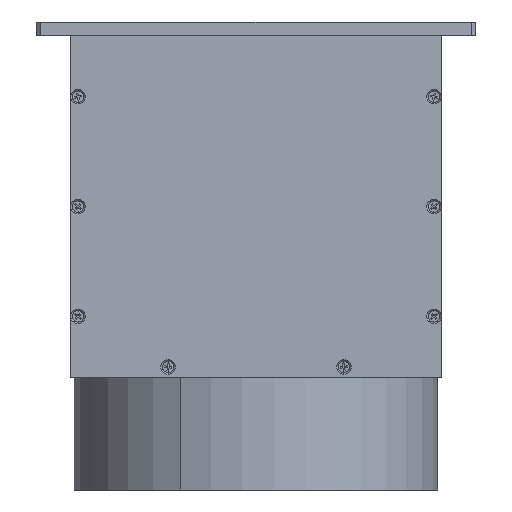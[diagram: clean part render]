
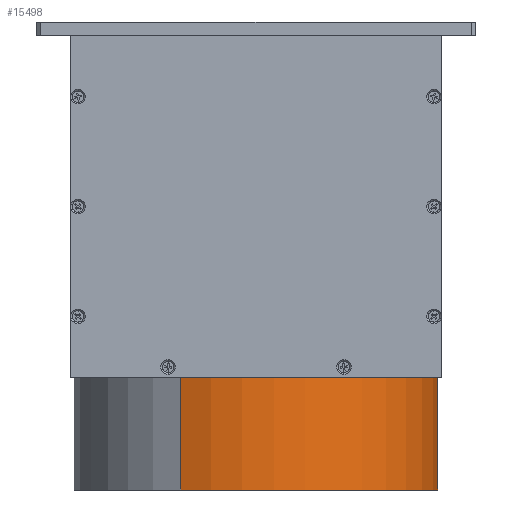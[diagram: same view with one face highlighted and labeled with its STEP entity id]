
A CAD part, left-side view. The second image highlights one B-rep face of the part: STEP entity #15498.
In plain terms, the highlighted cylindrical face has radius 83 mm (diameter 166 mm), a partial arc.
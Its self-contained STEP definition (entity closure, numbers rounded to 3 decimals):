
#35 = CARTESIAN_POINT ( 'NONE',  ( 75.561, -34.344, -123.035 ) ) ;
#40 = CARTESIAN_POINT ( 'NONE',  ( -75.561, 34.344, 0. ) ) ;
#583 = CARTESIAN_POINT ( 'NONE',  ( -75.561, 34.344, -51. ) ) ;
#655 = EDGE_LOOP ( 'NONE', ( #3353, #3734, #6271, #11933 ) ) ;
#736 = CARTESIAN_POINT ( 'NONE',  ( 0., 0., -51. ) ) ;
#1133 = DIRECTION ( 'NONE',  ( 0., 0., -1. ) ) ;
#1746 = VERTEX_POINT ( 'NONE', #583 ) ;
#3353 = ORIENTED_EDGE ( 'NONE', *, *, #22527, .F. ) ;
#3540 = DIRECTION ( 'NONE',  ( 0., 0., -1. ) ) ;
#3734 = ORIENTED_EDGE ( 'NONE', *, *, #19596, .T. ) ;
#4732 = LINE ( 'NONE', #6526, #14430 ) ;
#5993 = CIRCLE ( 'NONE', #16334, 83. ) ;
#6271 = ORIENTED_EDGE ( 'NONE', *, *, #11660, .T. ) ;
#6526 = CARTESIAN_POINT ( 'NONE',  ( -75.561, 34.344, -123.035 ) ) ;
#9450 = AXIS2_PLACEMENT_3D ( 'NONE', #12890, #3540, #16395 ) ;
#9505 = DIRECTION ( 'NONE',  ( 0., 0., -1. ) ) ;
#10376 = CARTESIAN_POINT ( 'NONE',  ( 0., 0., 0. ) ) ;
#10738 = VERTEX_POINT ( 'NONE', #15229 ) ;
#10845 = DIRECTION ( 'NONE',  ( 0., 0., -1. ) ) ;
#10970 = DIRECTION ( 'NONE',  ( 0., 0., -1. ) ) ;
#11103 = CARTESIAN_POINT ( 'NONE',  ( 75.561, -34.344, 0. ) ) ;
#11330 = LINE ( 'NONE', #35, #12358 ) ;
#11660 = EDGE_CURVE ( 'NONE', #15305, #1746, #4732, .T. ) ;
#11933 = ORIENTED_EDGE ( 'NONE', *, *, #11958, .F. ) ;
#11958 = EDGE_CURVE ( 'NONE', #10738, #1746, #5993, .T. ) ;
#12358 = VECTOR ( 'NONE', #10970, 1000. ) ;
#12890 = CARTESIAN_POINT ( 'NONE',  ( 0., 0., -123.035 ) ) ;
#14218 = DIRECTION ( 'NONE',  ( -0.91, 0.414, 0. ) ) ;
#14430 = VECTOR ( 'NONE', #1133, 1000. ) ;
#14468 = FACE_OUTER_BOUND ( 'NONE', #655, .T. ) ;
#15229 = CARTESIAN_POINT ( 'NONE',  ( 75.561, -34.344, -51. ) ) ;
#15305 = VERTEX_POINT ( 'NONE', #40 ) ;
#15498 = ADVANCED_FACE ( 'NONE', ( #14468 ), #21559, .T. ) ;
#16334 = AXIS2_PLACEMENT_3D ( 'NONE', #736, #9505, #18876 ) ;
#16395 = DIRECTION ( 'NONE',  ( -0.91, 0.414, 0. ) ) ;
#18164 = CIRCLE ( 'NONE', #20087, 83. ) ;
#18320 = VERTEX_POINT ( 'NONE', #11103 ) ;
#18876 = DIRECTION ( 'NONE',  ( -0.91, 0.414, 0. ) ) ;
#19596 = EDGE_CURVE ( 'NONE', #18320, #15305, #18164, .T. ) ;
#20087 = AXIS2_PLACEMENT_3D ( 'NONE', #10376, #10845, #14218 ) ;
#21559 = CYLINDRICAL_SURFACE ( 'NONE', #9450, 83. ) ;
#22527 = EDGE_CURVE ( 'NONE', #18320, #10738, #11330, .T. ) ;
